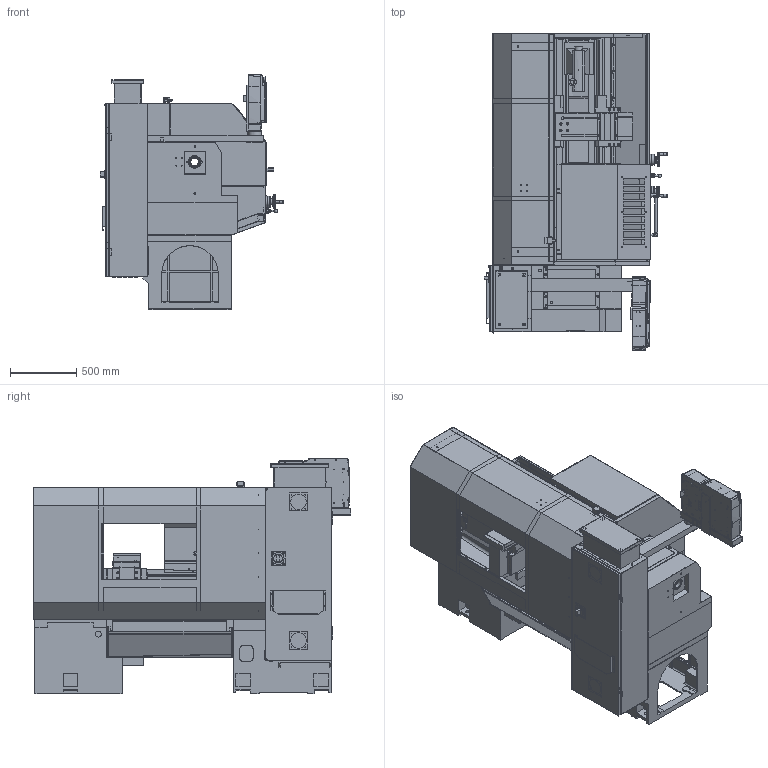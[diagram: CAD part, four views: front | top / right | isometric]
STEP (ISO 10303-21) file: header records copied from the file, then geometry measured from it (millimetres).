
FILE_DESCRIPTION( ( 'Unknown' ), '1' );
FILE_NAME( '//SERVERENG2/Data/DRAWINGS/1845RX-Simplified.stp', 'Unknown', ( 'Unknown' ), ( 'Unknown' ), 'PSStep 14.0', 'Unknown', ' ' );
FILE_SCHEMA( ( 'AUTOMOTIVE_DESIGN { 1 0 10303 214 1 1 1 1 }' ) );
Length unit declared in the file: millimetre
Products named in the file (143): LU050010-1; LU060010; LU400470_V1.1; LU400442(105.09.22); LU400432(106.09.01); LU400422(105.09.22); LU400460; 1; 2; 3; 4; 5; 6; 7; 8; 9; LS050050; LS050060; 10; 11; 12; 13; 14; 15; 16; 17; 18; 19; 20; 21; 22; 23; 24; 25; LU400450_V1.1; LU400450--1; LU050080; 26; 27; 28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
Bounding box: 1386.01 x 2394.1 x 1776.12 mm (x, y, z)
Surface area: 37905764.3 mm2 (no closed solid volume)
Topology: 0 solids, 2258 shells, 2259 faces, 15412 edges, 15157 vertices
Faces by surface type: plane 1583, cylinder 483, cone 88, bspline 81, torus 18, sphere 5, extrusion 1
Full cylindrical faces by diameter (mm): 5.9 x1, 6 x2, 7 x3, 7.137 x4, 8 x2, 8.566 x1, 9 x1, 9.459 x1, 10 x5, 10.668 x8, 11 x4, 11.459 x2, 12 x3, 12.7 x2, 14 x15, 16 x1, 16.154 x2, 16.759 x1, 17.5 x4, 18 x2, 18.395 x1, 20 x9, 21.5 x5, 23.02 x6, 23.139 x2, 24 x6, 25 x1, 25.4 x5, 27.94 x2, 28 x2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
Entity records: 189981 total; most frequent: CARTESIAN_POINT 62005, DIRECTION 21002, ORIENTED_EDGE 15029, EDGE_CURVE 15029, VERTEX_POINT 15029, VECTOR 10582, LINE 10581, AXIS2_PLACEMENT_3D 5210
